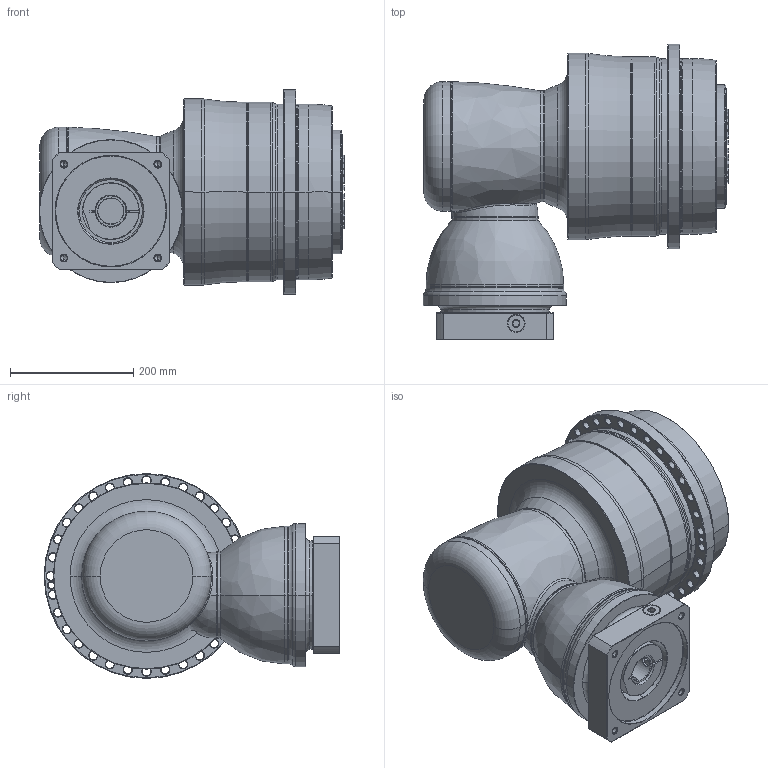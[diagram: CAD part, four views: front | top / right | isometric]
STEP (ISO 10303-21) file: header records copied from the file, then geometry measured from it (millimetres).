
FILE_DESCRIPTION((''),'2;1');
FILE_NAME('APCK285_3ST_42-P0409A00201_ASM','2018-05-14T',('d01226'),(''),'PRO/ENGINEER BY PARAMETRIC TECHNOLOGY CORPORATION, 2008410','PRO/ENGINEER BY PARAMETRIC TECHNOLOGY CORPORATION, 2008410','');
FILE_SCHEMA(('CONFIG_CONTROL_DESIGN'));
Length unit declared in the file: millimetre
Products named in the file (13): P1008600002; P1832810001; P0278801003; P03598G0103; P1211800001; P1315600001; P1007601001; P1318610301; P0409A00201; P0503A00012; P0912603001; 21711422019; APCK285_3ST_42-P0409A00201_ASM
Assembly tree (12 placements, depth 2):
  APCK285_3ST_42-P0409A00201_ASM
    P1008600002
    P1832810001
    P0278801003
    P03598G0103
    P1211800001
    P1315600001
    P1007601001
    P1318610301
    P0409A00201
    P0503A00012
    P0912603001
    21711422019
Bounding box: 495.1 x 479.5 x 332 mm (x, y, z)
Volume: 30245590.7 mm3; surface area: 1686454 mm2
Topology: 13 solids, 25 shells, 857 faces, 2055 edges, 1256 vertices
Faces by surface type: cone 286, cylinder 241, plane 155, torus 140, bspline 33, sphere 2
Entity records: 32137 total; most frequent: CARTESIAN_POINT 11693, DIRECTION 4565, ORIENTED_EDGE 4032, EDGE_CURVE 2041, AXIS2_PLACEMENT_3D 2014, VERTEX_POINT 1256, CIRCLE 1153, EDGE_LOOP 987
